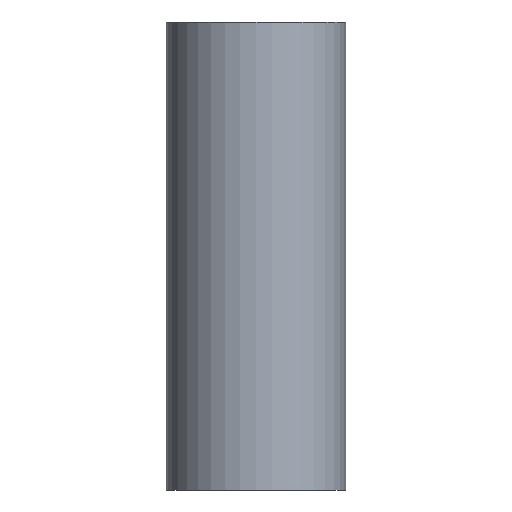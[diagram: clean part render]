
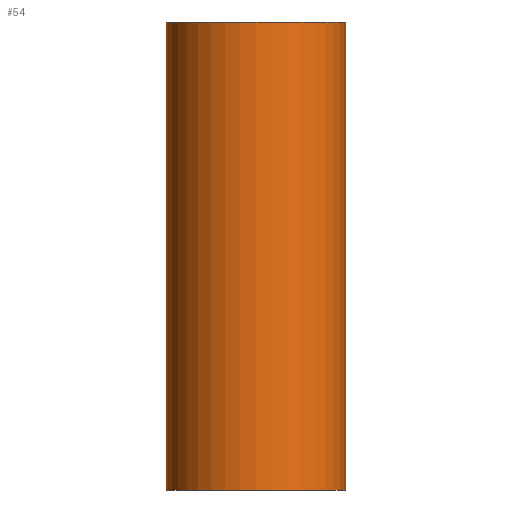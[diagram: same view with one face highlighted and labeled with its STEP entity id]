
A CAD part, front view. The second image highlights one B-rep face of the part: STEP entity #54.
In plain terms, the highlighted cylindrical face has radius 57.15 mm (diameter 114.3 mm), a partial arc.
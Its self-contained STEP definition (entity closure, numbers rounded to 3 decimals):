
#12 = CARTESIAN_POINT ( 'NONE',  ( -57.15, 0., -298. ) ) ;
#41 = CARTESIAN_POINT ( 'NONE',  ( 0., 0., -298. ) ) ;
#53 = VERTEX_POINT ( 'NONE', #12 ) ;
#54 = ADVANCED_FACE ( 'NONE', ( #381 ), #435, .T. ) ;
#57 = DIRECTION ( 'NONE',  ( 0., 0., 1. ) ) ;
#66 = DIRECTION ( 'NONE',  ( 0., 0., 1. ) ) ;
#77 = VERTEX_POINT ( 'NONE', #355 ) ;
#81 = EDGE_CURVE ( 'NONE', #378, #447, #373, .T. ) ;
#84 = DIRECTION ( 'NONE',  ( 0., 0., 1. ) ) ;
#98 = EDGE_CURVE ( 'NONE', #53, #378, #421, .T. ) ;
#101 = DIRECTION ( 'NONE',  ( 0., 0., 1. ) ) ;
#106 = DIRECTION ( 'NONE',  ( 1., 0., 0. ) ) ;
#115 = AXIS2_PLACEMENT_3D ( 'NONE', #398, #66, #106 ) ;
#118 = CARTESIAN_POINT ( 'NONE',  ( -57.15, 0., 0. ) ) ;
#129 = CARTESIAN_POINT ( 'NONE',  ( 57.15, 0., 0. ) ) ;
#137 = VECTOR ( 'NONE', #57, 1000. ) ;
#144 = EDGE_LOOP ( 'NONE', ( #352, #478, #321, #287 ) ) ;
#191 = CARTESIAN_POINT ( 'NONE',  ( -57.15, 0., 0. ) ) ;
#224 = DIRECTION ( 'NONE',  ( 1., 0., 0. ) ) ;
#284 = LINE ( 'NONE', #129, #394 ) ;
#287 = ORIENTED_EDGE ( 'NONE', *, *, #81, .F. ) ;
#298 = CIRCLE ( 'NONE', #343, 57.15 ) ;
#321 = ORIENTED_EDGE ( 'NONE', *, *, #444, .T. ) ;
#324 = DIRECTION ( 'NONE',  ( 1., 0., 0. ) ) ;
#343 = AXIS2_PLACEMENT_3D ( 'NONE', #41, #544, #324 ) ;
#352 = ORIENTED_EDGE ( 'NONE', *, *, #98, .F. ) ;
#355 = CARTESIAN_POINT ( 'NONE',  ( 57.15, 0., -298. ) ) ;
#373 = CIRCLE ( 'NONE', #115, 57.15 ) ;
#378 = VERTEX_POINT ( 'NONE', #118 ) ;
#381 = FACE_OUTER_BOUND ( 'NONE', #144, .T. ) ;
#394 = VECTOR ( 'NONE', #84, 1000. ) ;
#398 = CARTESIAN_POINT ( 'NONE',  ( 0., 0., 0. ) ) ;
#421 = LINE ( 'NONE', #191, #137 ) ;
#429 = CARTESIAN_POINT ( 'NONE',  ( 0., 0., 0. ) ) ;
#435 = CYLINDRICAL_SURFACE ( 'NONE', #514, 57.15 ) ;
#441 = EDGE_CURVE ( 'NONE', #53, #77, #298, .T. ) ;
#444 = EDGE_CURVE ( 'NONE', #77, #447, #284, .T. ) ;
#447 = VERTEX_POINT ( 'NONE', #508 ) ;
#478 = ORIENTED_EDGE ( 'NONE', *, *, #441, .T. ) ;
#508 = CARTESIAN_POINT ( 'NONE',  ( 57.15, 0., 0. ) ) ;
#514 = AXIS2_PLACEMENT_3D ( 'NONE', #429, #101, #224 ) ;
#544 = DIRECTION ( 'NONE',  ( 0., 0., 1. ) ) ;
